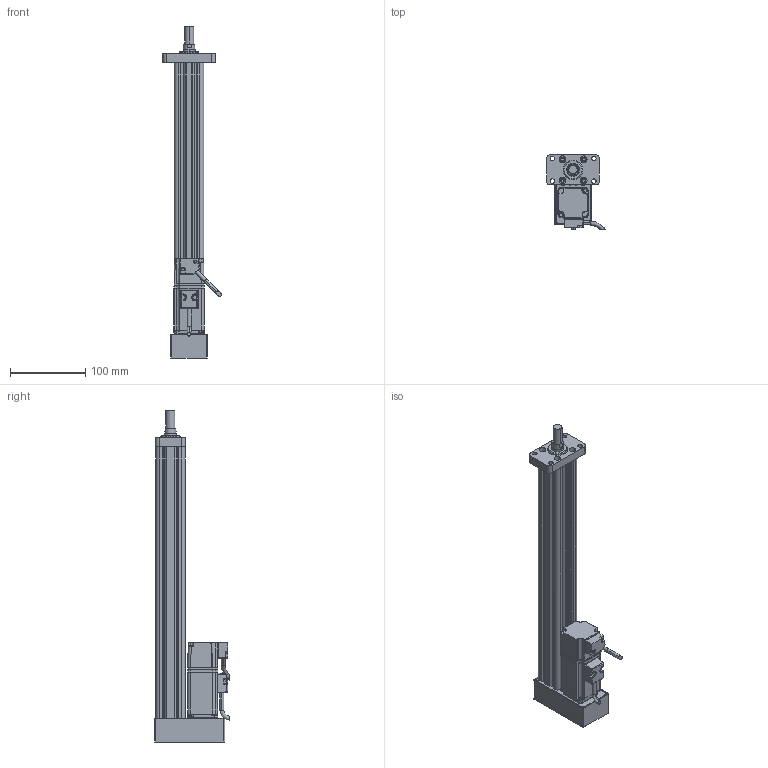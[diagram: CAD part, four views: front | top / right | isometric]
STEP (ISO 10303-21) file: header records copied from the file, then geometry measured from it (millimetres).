
FILE_DESCRIPTION (( 'STEP AP214' ), '1' );
FILE_NAME ('039-S300-D02-B-M3-C1-2.STEP', '2021-02-25T08:42:09', ( '' ), ( '' ), 'SwSTEP 2.0', 'SolidWorks 2018', '' );
FILE_SCHEMA (( 'AUTOMOTIVE_DESIGN' ));
Length unit declared in the file: millimetre
Products named in the file (7): CMC039-LJB; 039-S300-D02-B-M3-C1-2; ECMA-CX0401ES-40框號系列機種-100W低慣量系列; CMC039-XT; CMC039-FL; CMC039-DT; CMC039-GT
Assembly tree (6 placements, depth 2):
  039-S300-D02-B-M3-C1-2
    CMC039-GT
    CMC039-LJB
    CMC039-XT
    CMC039-FL
    CMC039-DT
    ECMA-CX0401ES-40框號系列機種-100W低慣量系列
Bounding box: 77.83 x 99.39 x 440 mm (x, y, z)
Volume: 557969.2 mm3; surface area: 196700.5 mm2
Topology: 6 solids, 14 shells, 615 faces, 1596 edges, 991 vertices
Faces by surface type: cylinder 250, plane 240, bspline 84, cone 41
Entity records: 24778 total; most frequent: CARTESIAN_POINT 10693, ORIENTED_EDGE 3126, DIRECTION 2457, EDGE_CURVE 1563, VERTEX_POINT 991, AXIS2_PLACEMENT_3D 842, VECTOR 773, LINE 773
